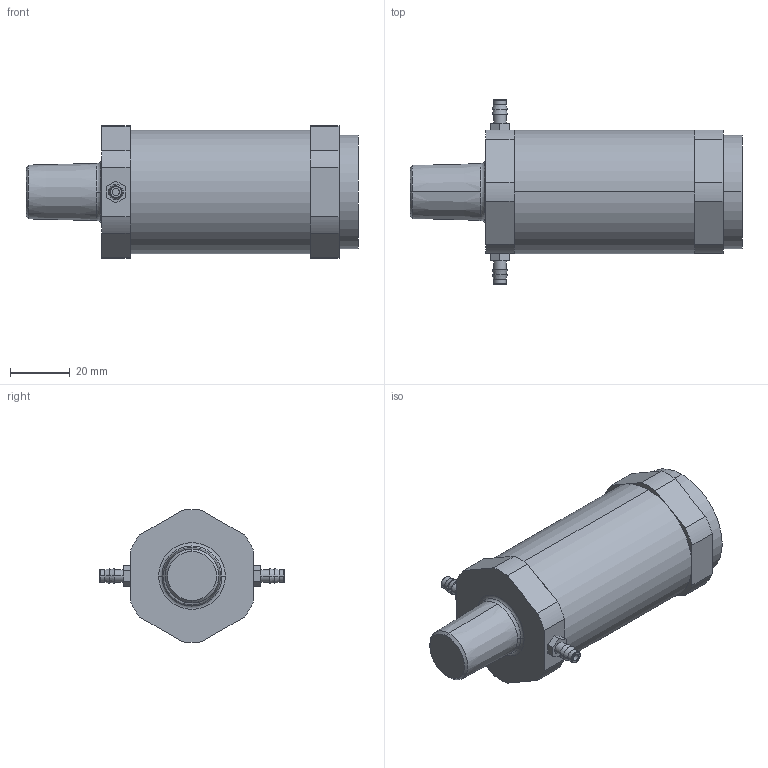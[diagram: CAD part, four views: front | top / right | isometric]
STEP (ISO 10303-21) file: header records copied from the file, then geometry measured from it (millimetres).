
FILE_DESCRIPTION((''),'2;1');
FILE_NAME('XDR4_ASM','2017-08-24T',('jennifer.elliott'),('CenterLine (Windsor) Ltd - Automation Components Division'),'PRO/ENGINEER BY PARAMETRIC TECHNOLOGY CORPORATION, 2015030','PRO/ENGINEER BY PARAMETRIC TECHNOLOGY CORPORATION, 2015030','');
FILE_SCHEMA(('AUTOMOTIVE_DESIGN { 1 0 10303 214 1 1 1 1 }'));
Length unit declared in the file: inch
Products named in the file (7): PRT1025; PRT1026; PRT1027; PRT1028; PRT1029; PRT1030; XDR4_ASM
Assembly tree (6 placements, depth 2):
  XDR4_ASM
    PRT1025
    PRT1026
    PRT1027
    PRT1028
    PRT1029
    PRT1030
Bounding box: 111 x 61.9 x 44.45 mm (x, y, z)
Volume: 122685 mm3; surface area: 23937.1 mm2
Topology: 6 solids, 6 shells, 95 faces, 237 edges, 161 vertices
Faces by surface type: plane 43, cylinder 28, torus 12, cone 12
Entity records: 3362 total; most frequent: DIRECTION 578, CARTESIAN_POINT 525, ORIENTED_EDGE 474, EDGE_CURVE 237, AXIS2_PLACEMENT_3D 233, VERTEX_POINT 161, CIRCLE 125, VECTOR 112
